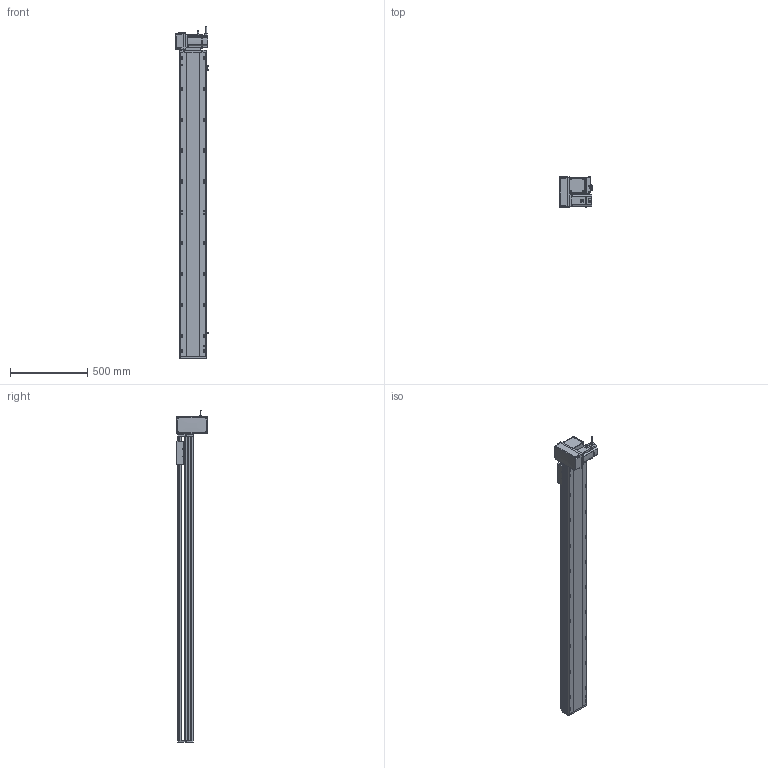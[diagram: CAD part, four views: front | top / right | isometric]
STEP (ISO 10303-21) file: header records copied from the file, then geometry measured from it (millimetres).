
FILE_DESCRIPTION (( 'STEP AP214' ), '1' );
FILE_NAME ('RTB17S-XX-1700-LM-M75-C4.STEP', '2025-12-12T00:42:30', ( '' ), ( '' ), 'SwSTEP 2.0', 'SolidWorks 2018', '' );
FILE_SCHEMA (( 'AUTOMOTIVE_DESIGN' ));
Length unit declared in the file: millimetre
Products named in the file (15): RTB22S-GY-005P^RTB17S-LM-々湍釱蚾饜-750W_RTB17S-XX-XX-LM-M75-C4; RTB17S-L-014-T20-P75--々湍釱^RTB17S-LM-々湍釱蚾饜-750W_RTB17S-XX-XX-LM-M75-C4; RTH13-BL-012覜茼え俋离^RTB17S-賑釱_RTB17S-XX-XX-LM-M75-C4; 750W萇儂^RTB17S-XX-XX-LM-M75-C4; RTB22S-GY-017P^RTB17S-LM-々湍釱蚾饜-750W_RTB17S-XX-XX-LM-M75-C4; RTB17S-L-004-賑釱^RTB17S-賑釱_RTB17S-XX-XX-LM-M75-C4; RTB17S-L-007奻裔^RTB17S-XX-XX-LM-M75-C4; RTB22S-GY-008-M75--萇儂啣^RTB17S-LM-々湍釱蚾饜-750W_RTB17S-XX-XX-LM-M75-C4; RTB17S-L-001-耜醱啣^RTB17S-XX-XX-LM-M75-C4; RTB17S-LM-々湍釱蚾饜-750W^RTB17S-XX-XX-LM-M75-C4; RTB17S-賑釱^RTB17S-XX-XX-LM-M75-C4; RTB17-R-011菁釱^RTB17S-XX-XX-LM-M75-C4; EE672^RTB17S-XX-XX-LM-M75-C4; RTB17S-XX-1700-LM-M75-C4; RTB22S-GY-018P^RTB17S-LM-々湍釱蚾饜-750W_RTB17S-XX-XX-LM-M75-C4
Assembly tree (17 placements, depth 3):
  RTB17S-XX-1700-LM-M75-C4
    RTB17-R-011菁釱^RTB17S-XX-XX-LM-M75-C4
    EE672^RTB17S-XX-XX-LM-M75-C4  x3
    RTB17S-L-001-耜醱啣^RTB17S-XX-XX-LM-M75-C4
    RTB17S-賑釱^RTB17S-XX-XX-LM-M75-C4
      RTB17S-L-004-賑釱^RTB17S-賑釱_RTB17S-XX-XX-LM-M75-C4
      RTH13-BL-012覜茼え俋离^RTB17S-賑釱_RTB17S-XX-XX-LM-M75-C4
    RTB17S-L-007奻裔^RTB17S-XX-XX-LM-M75-C4
    750W萇儂^RTB17S-XX-XX-LM-M75-C4
    RTB17S-LM-々湍釱蚾饜-750W^RTB17S-XX-XX-LM-M75-C4
      RTB17S-L-014-T20-P75--々湍釱^RTB17S-LM-々湍釱蚾饜-750W_RTB17S-XX-XX-LM-M75-C4
      RTB22S-GY-005P^RTB17S-LM-々湍釱蚾饜-750W_RTB17S-XX-XX-LM-M75-C4
      RTB22S-GY-017P^RTB17S-LM-々湍釱蚾饜-750W_RTB17S-XX-XX-LM-M75-C4  x2
      RTB22S-GY-008-M75--萇儂啣^RTB17S-LM-々湍釱蚾饜-750W_RTB17S-XX-XX-LM-M75-C4
      RTB22S-GY-018P^RTB17S-LM-々湍釱蚾饜-750W_RTB17S-XX-XX-LM-M75-C4
Bounding box: 210.4 x 200 x 2152.2 mm (x, y, z)
Volume: 16574329.2 mm3; surface area: 2931648.8 mm2
Topology: 17 solids, 17 shells, 2153 faces, 5998 edges, 3878 vertices
Faces by surface type: plane 978, cylinder 759, bspline 294, cone 110, sphere 8, torus 4
Entity records: 61174 total; most frequent: CARTESIAN_POINT 18062, ORIENTED_EDGE 8840, DIRECTION 8222, EDGE_CURVE 4420, AXIS2_PLACEMENT_3D 2898, VERTEX_POINT 2882, VECTOR 2426, LINE 2426
